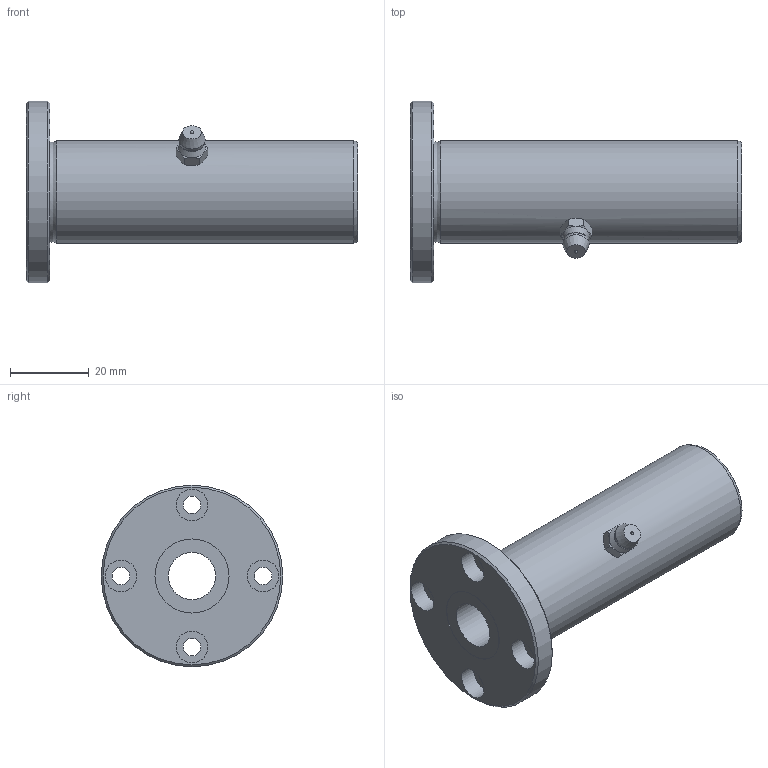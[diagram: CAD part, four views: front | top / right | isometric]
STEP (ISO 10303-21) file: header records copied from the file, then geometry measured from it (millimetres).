
FILE_DESCRIPTION((''),'2;1');
FILE_NAME('D:\製品 (図面)\カタログ用3D\リニアベアリング関連\STEP形式\LFL\LFL12.stp','2010-06-04T08:59:25',('Tsuchiya'),(''),'Autodesk Inventor 10','Autodesk Inventor 10','');
FILE_SCHEMA(('AUTOMOTIVE_DESIGN { 1 0 10303 214 1 1 1 1 }'));
Length unit declared in the file: millimetre
Products named in the file (1): LFL12
Bounding box: 84 x 46 x 46 mm (x, y, z)
Volume: 41060.7 mm3; surface area: 14005.9 mm2
Topology: 1 solids, 1 shells, 55 faces, 110 edges, 66 vertices
Faces by surface type: plane 19, cone 15, cylinder 15, bspline 3, sphere 2, torus 1
Full cylindrical faces by diameter (mm): 4.5 x4, 8 x4, 12 x1, 18.8 x2, 26 x1, 46 x1
Entity records: 1561 total; most frequent: CARTESIAN_POINT 508, DIRECTION 220, ORIENTED_EDGE 176, AXIS2_PLACEMENT_3D 105, EDGE_LOOP 96, EDGE_CURVE 88, VERTEX_POINT 64, FACE_OUTER_BOUND 55
